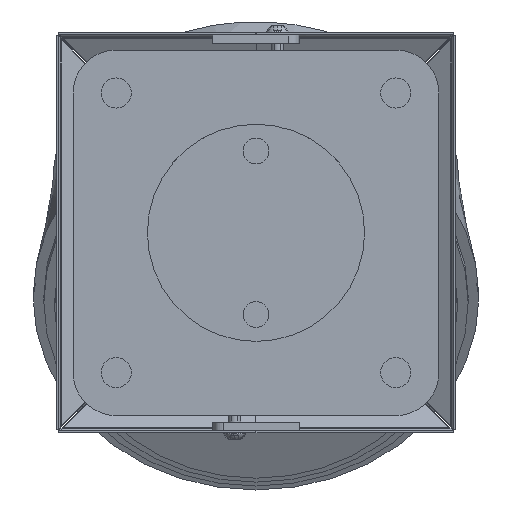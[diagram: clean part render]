
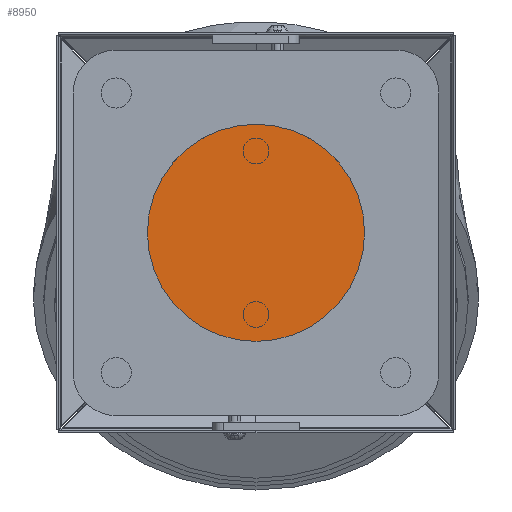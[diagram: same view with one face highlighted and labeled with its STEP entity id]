
A CAD part, front view. The second image highlights one B-rep face of the part: STEP entity #8950.
In plain terms, the highlighted planar face has unit normal (0, -1, 0).
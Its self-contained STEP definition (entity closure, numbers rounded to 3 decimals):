
#808 = AXIS2_PLACEMENT_3D ( 'NONE', #2417, #5537, #8595 ) ;
#969 = CARTESIAN_POINT ( 'NONE',  ( 0., 1000., -62.5 ) ) ;
#1173 = ORIENTED_EDGE ( 'NONE', *, *, #2029, .F. ) ;
#1308 = AXIS2_PLACEMENT_3D ( 'NONE', #8891, #9475, #2578 ) ;
#2029 = EDGE_CURVE ( 'NONE', #8014, #5569, #9698, .T. ) ;
#2417 = CARTESIAN_POINT ( 'NONE',  ( 0., 1000., 0. ) ) ;
#2578 = DIRECTION ( 'NONE',  ( 0., 0., 1. ) ) ;
#3415 = CIRCLE ( 'NONE', #808, 62.5 ) ;
#4252 = FACE_OUTER_BOUND ( 'NONE', #5704, .T. ) ;
#4420 = AXIS2_PLACEMENT_3D ( 'NONE', #9893, #9157, #6017 ) ;
#5092 = CARTESIAN_POINT ( 'NONE',  ( 0., 1000., 62.5 ) ) ;
#5537 = DIRECTION ( 'NONE',  ( 0., 1., 0. ) ) ;
#5569 = VERTEX_POINT ( 'NONE', #969 ) ;
#5704 = EDGE_LOOP ( 'NONE', ( #8678, #1173 ) ) ;
#6017 = DIRECTION ( 'NONE',  ( 0., 0., 1. ) ) ;
#7215 = PLANE ( 'NONE',  #4420 ) ;
#8014 = VERTEX_POINT ( 'NONE', #5092 ) ;
#8194 = EDGE_CURVE ( 'NONE', #5569, #8014, #3415, .T. ) ;
#8595 = DIRECTION ( 'NONE',  ( 0., 0., 1. ) ) ;
#8678 = ORIENTED_EDGE ( 'NONE', *, *, #8194, .F. ) ;
#8891 = CARTESIAN_POINT ( 'NONE',  ( 0., 1000., 0. ) ) ;
#8950 = ADVANCED_FACE ( 'NONE', ( #4252 ), #7215, .F. ) ;
#9157 = DIRECTION ( 'NONE',  ( 0., 1., 0. ) ) ;
#9475 = DIRECTION ( 'NONE',  ( 0., 1., 0. ) ) ;
#9698 = CIRCLE ( 'NONE', #1308, 62.5 ) ;
#9893 = CARTESIAN_POINT ( 'NONE',  ( 0., 1000., 0. ) ) ;
